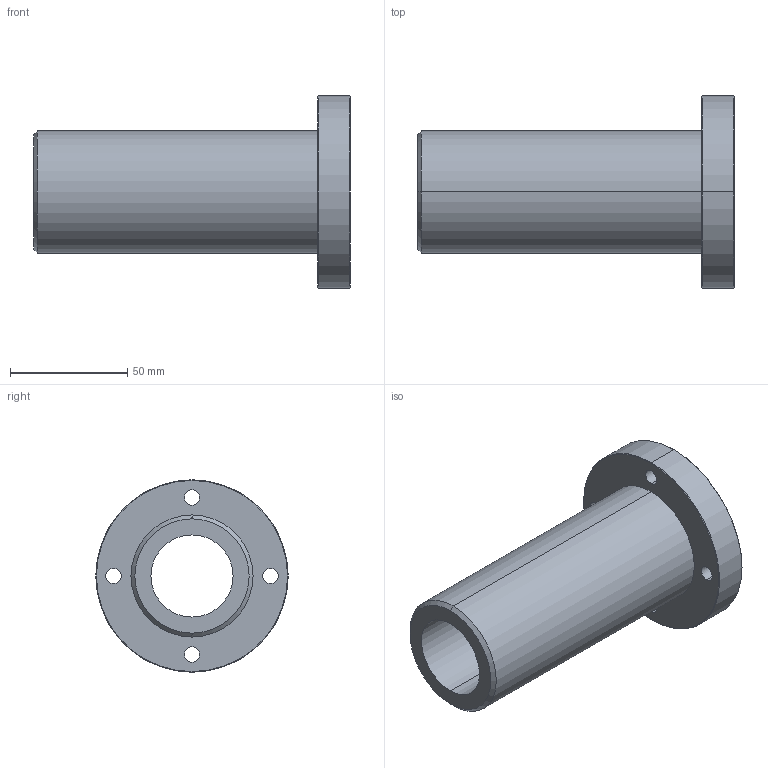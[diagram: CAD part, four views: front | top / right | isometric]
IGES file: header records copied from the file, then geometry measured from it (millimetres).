
Start section: 3D InterOp IGES (Version 21 0 1), Spatial Corp. Copyright (c) 1999-2007.
Global section: file name: DFPJR35.igs; native system: Spatial Corp.; preprocessor: 3D InterOp GENERIC/IGES 3.0; author: Noname; organization: Noname; date: 20220324.143513; units: millimetre
Bounding box: 135 x 82 x 82 mm (x, y, z)
Surface area: 47841.7 mm2 (no closed solid volume)
Topology: 0 solids, 0 shells, 35 faces, 156 edges, 156 vertices
Faces by surface type: revolution 28, extrusion 7
